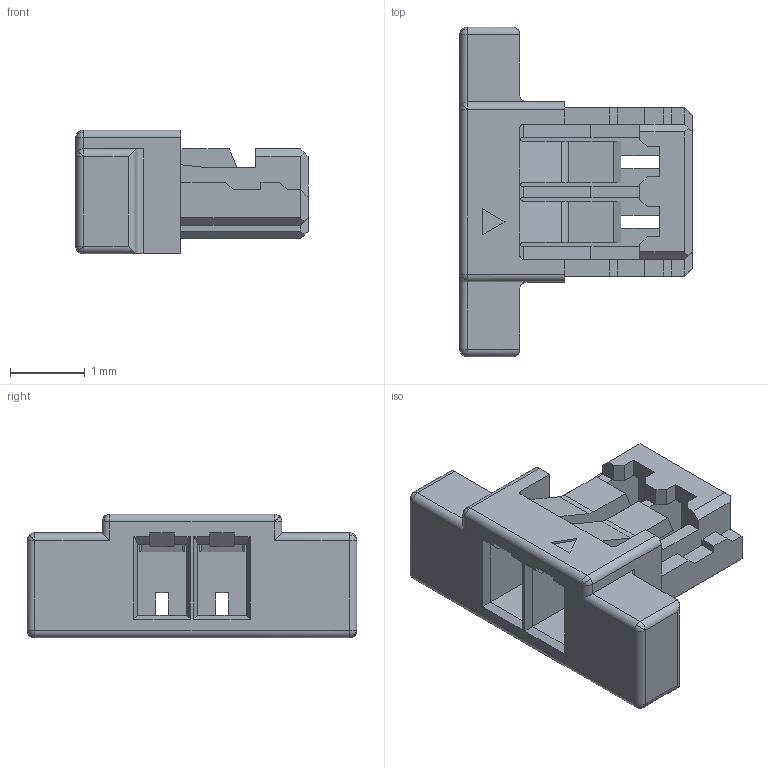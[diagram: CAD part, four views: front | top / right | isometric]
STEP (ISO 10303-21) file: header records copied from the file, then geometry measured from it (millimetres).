
FILE_DESCRIPTION((''),'2;1');
FILE_NAME('SCT0801H-02','2023-04-10T16:56:19',('Administrator'),(''),'CREO PARAMETRIC BY PTC INC, 2018050','CREO PARAMETRIC BY PTC INC, 2018050','');
FILE_SCHEMA(('CONFIG_CONTROL_DESIGN'));
Length unit declared in the file: millimetre
Products named in the file (1): SCT0801H-02
Bounding box: 3.1 x 4.4 x 1.65 mm (x, y, z)
Volume: 7.6 mm3; surface area: 56.1 mm2
Topology: 1 solids, 1 shells, 186 faces, 501 edges, 302 vertices
Faces by surface type: plane 148, cylinder 26, sphere 12
Entity records: 5698 total; most frequent: CARTESIAN_POINT 1078, ORIENTED_EDGE 982, DIRECTION 895, EDGE_CURVE 491, VECTOR 431, LINE 431, VERTEX_POINT 302, AXIS2_PLACEMENT_3D 232
